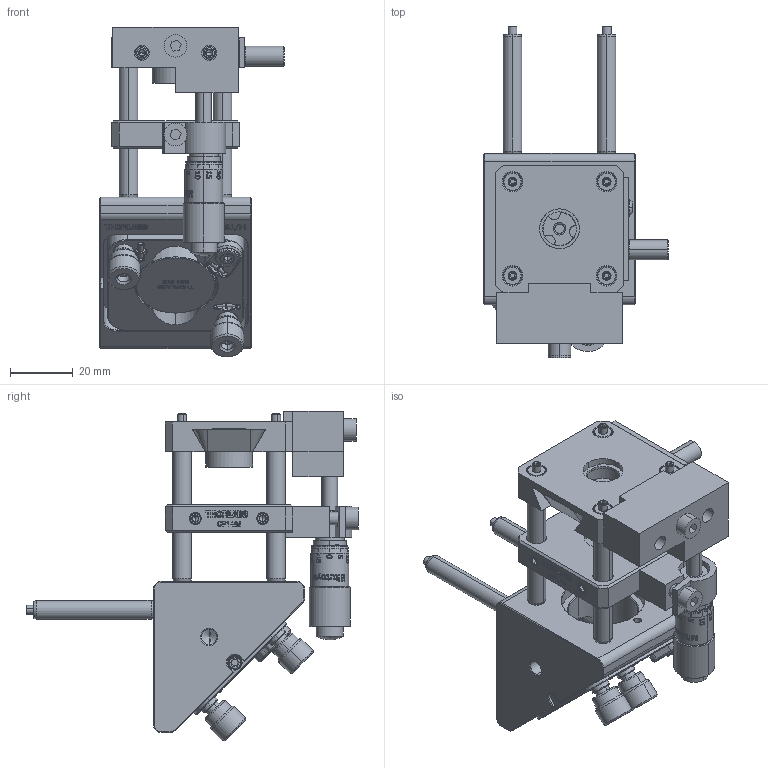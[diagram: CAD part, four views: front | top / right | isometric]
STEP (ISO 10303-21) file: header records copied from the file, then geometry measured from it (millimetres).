
FILE_DESCRIPTION (( 'STEP AP214' ), '1' );
FILE_NAME ('2021-09_0 - SOLID ASSY.STEP', '2022-02-26T12:27:52', ( '' ), ( '' ), 'SwSTEP 2.0', 'SolidWorks 2020', '' );
FILE_SCHEMA (( 'AUTOMOTIVE_DESIGN' ));
Length unit declared in the file: millimetre
Products named in the file (16): KCB1_M; CP14_Web Assembly; ER1.5; 2021-12_0 - MICROMETER CLAMP; DIN912 M4x12; CFH1R; 2021-13_0 - MICROMETER FLAT; 148-801ST; 2021-11_0 - COUPELLE ASSY; ER2; 2021-09_0 - SOLID ASSY; 2021-10_0 - COUPELLE; BB1-E02; PP58.1; SM05RR; 2021-08 - AC127-019 OPTICAL LAYOUT.stp
Assembly tree (20 placements, depth 3):
  2021-09_0 - SOLID ASSY
    2021-08 - AC127-019 OPTICAL LAYOUT.stp
    CP14_Web Assembly
    CFH1R
    2021-11_0 - COUPELLE ASSY
      2021-10_0 - COUPELLE
      PP58.1
      SM05RR
    ER2  x4
    KCB1_M
    BB1-E02
    ER1.5  x2
    148-801ST
    2021-12_0 - MICROMETER CLAMP
    DIN912 M4x12  x2
    2021-13_0 - MICROMETER FLAT
Bounding box: 58.76 x 105.9 x 105.24 mm (x, y, z)
Volume: 104638.6 mm3; surface area: 60834 mm2
Topology: 72 solids, 72 shells, 3557 faces, 8804 edges, 5518 vertices
Faces by surface type: plane 1682, cone 640, cylinder 600, bspline 591, torus 24, sphere 20
Entity records: 173954 total; most frequent: CARTESIAN_POINT 63744, ORIENTED_EDGE 16256, DIRECTION 13635, EDGE_CURVE 8128, VERTEX_POINT 5184, AXIS2_PLACEMENT_3D 4666, VECTOR 4303, LINE 4303
